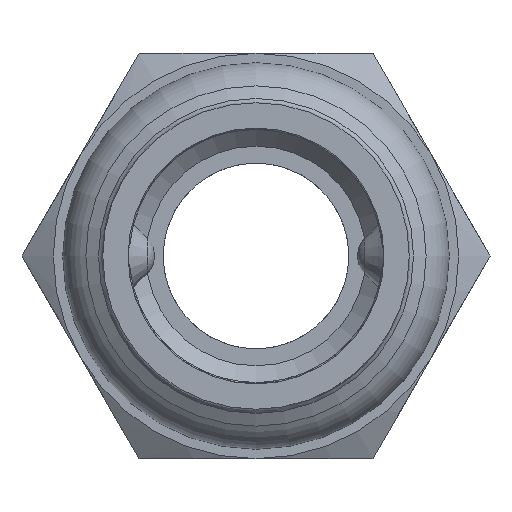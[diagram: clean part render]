
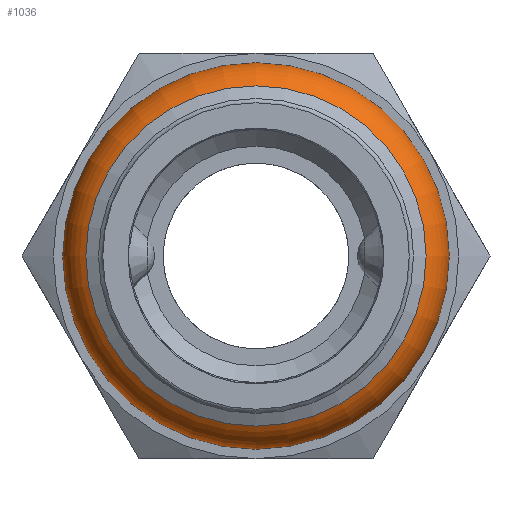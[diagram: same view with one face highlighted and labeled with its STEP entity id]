
A CAD part, left-side view. The second image highlights one B-rep face of the part: STEP entity #1036.
In plain terms, the highlighted toroidal (fillet/blend) face has major radius 8.7 mm and minor radius 2.75 mm.
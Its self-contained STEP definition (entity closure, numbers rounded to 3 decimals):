
#866=CARTESIAN_POINT('',(-20.852,9.44,0.0));
#867=VERTEX_POINT('',#866);
#868=CARTESIAN_POINT('',(-20.852,0.,0.0));
#869=DIRECTION('',(1.0,0.0,0.0));
#870=DIRECTION('',(0.0,-1.0,0.0));
#871=AXIS2_PLACEMENT_3D('',#868,#869,#870);
#872=CIRCLE('',#871,9.44);
#873=EDGE_CURVE('',#867,#867,#872,.T.);
#1010=CARTESIAN_POINT('',(-25.882,10.075,0.0));
#1011=VERTEX_POINT('',#1010);
#1012=CARTESIAN_POINT('',(-25.882,0.,0.0));
#1013=DIRECTION('',(1.0,0.0,0.0));
#1014=DIRECTION('',(0.0,1.0,0.0));
#1015=AXIS2_PLACEMENT_3D('',#1012,#1013,#1014);
#1016=CIRCLE('',#1015,10.075);
#1017=EDGE_CURVE('',#1011,#1011,#1016,.T.);
#1025=CARTESIAN_POINT('',(-23.5,0.,0.0));
#1026=DIRECTION('',(1.0,0.,0.0));
#1027=DIRECTION('',(0.0,0.0,-1.0));
#1028=AXIS2_PLACEMENT_3D('',#1025,#1026,#1027);
#1029=TOROIDAL_SURFACE('',#1028,8.7,2.75);
#1030=ORIENTED_EDGE('',*,*,#1017,.T.);
#1031=EDGE_LOOP('',(#1030));
#1032=FACE_OUTER_BOUND('',#1031,.T.);
#1033=ORIENTED_EDGE('',*,*,#873,.F.);
#1034=EDGE_LOOP('',(#1033));
#1035=FACE_BOUND('',#1034,.T.);
#1036=ADVANCED_FACE('',(#1032,#1035),#1029,.T.);
